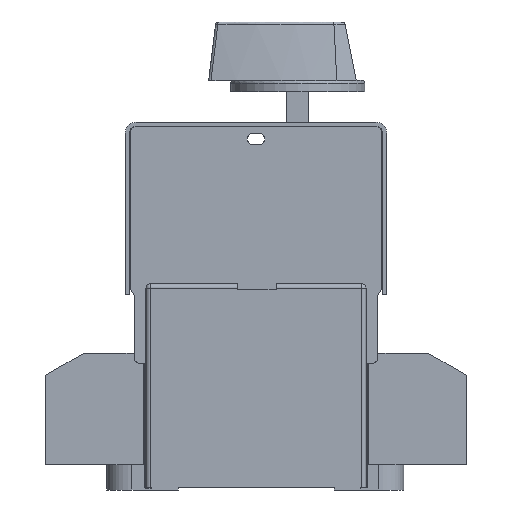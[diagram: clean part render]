
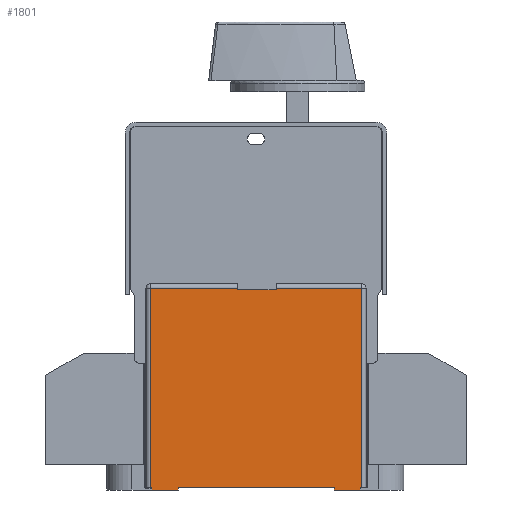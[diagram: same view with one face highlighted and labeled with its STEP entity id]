
A CAD part, left-side view. The second image highlights one B-rep face of the part: STEP entity #1801.
In plain terms, the highlighted planar face has unit normal (-1, 0, 0).
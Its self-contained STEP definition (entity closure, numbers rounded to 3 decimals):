
#1801=ADVANCED_FACE('',(#3917),#3069,.F.);
#3069=PLANE('',#25568);
#3917=FACE_OUTER_BOUND('',#5121,.T.);
#5121=EDGE_LOOP('',(#7182,#7183,#7184,#7185,#7186,#7187,#7188,#7189,#7190,
#7191,#7192,#7193,#7194,#7195,#7196,#7197));
#7182=ORIENTED_EDGE('',*,*,#16686,.F.);
#7183=ORIENTED_EDGE('',*,*,#16687,.T.);
#7184=ORIENTED_EDGE('',*,*,#16688,.T.);
#7185=ORIENTED_EDGE('',*,*,#16473,.F.);
#7186=ORIENTED_EDGE('',*,*,#16689,.T.);
#7187=ORIENTED_EDGE('',*,*,#16690,.T.);
#7188=ORIENTED_EDGE('',*,*,#16684,.T.);
#7189=ORIENTED_EDGE('',*,*,#16570,.T.);
#7190=ORIENTED_EDGE('',*,*,#16336,.F.);
#7191=ORIENTED_EDGE('',*,*,#16691,.F.);
#7192=ORIENTED_EDGE('',*,*,#16692,.T.);
#7193=ORIENTED_EDGE('',*,*,#16476,.T.);
#7194=ORIENTED_EDGE('',*,*,#16693,.F.);
#7195=ORIENTED_EDGE('',*,*,#16694,.F.);
#7196=ORIENTED_EDGE('',*,*,#16352,.T.);
#7197=ORIENTED_EDGE('',*,*,#16582,.T.);
#13941=VERTEX_POINT('',#34391);
#13942=VERTEX_POINT('',#34393);
#13955=VERTEX_POINT('',#34424);
#13956=VERTEX_POINT('',#34426);
#14055=VERTEX_POINT('',#34674);
#14057=VERTEX_POINT('',#34678);
#14060=VERTEX_POINT('',#34685);
#14061=VERTEX_POINT('',#34687);
#14140=VERTEX_POINT('',#34874);
#14148=VERTEX_POINT('',#34896);
#14211=VERTEX_POINT('',#35094);
#14212=VERTEX_POINT('',#35098);
#14213=VERTEX_POINT('',#35100);
#14214=VERTEX_POINT('',#35103);
#14215=VERTEX_POINT('',#35106);
#14216=VERTEX_POINT('',#35109);
#16336=EDGE_CURVE('',#13941,#13942,#19969,.T.);
#16352=EDGE_CURVE('',#13956,#13955,#19984,.T.);
#16473=EDGE_CURVE('',#14057,#14055,#20092,.T.);
#16476=EDGE_CURVE('',#14061,#14060,#20095,.T.);
#16570=EDGE_CURVE('',#14140,#13942,#20168,.T.);
#16582=EDGE_CURVE('',#13955,#14148,#20176,.T.);
#16684=EDGE_CURVE('',#14211,#14140,#20264,.T.);
#16686=EDGE_CURVE('',#14212,#14148,#20265,.T.);
#16687=EDGE_CURVE('',#14212,#14213,#20266,.T.);
#16688=EDGE_CURVE('',#14213,#14055,#20267,.T.);
#16689=EDGE_CURVE('',#14057,#14214,#20268,.T.);
#16690=EDGE_CURVE('',#14214,#14211,#20269,.T.);
#16691=EDGE_CURVE('',#14215,#13941,#20270,.T.);
#16692=EDGE_CURVE('',#14215,#14061,#20271,.T.);
#16693=EDGE_CURVE('',#14216,#14060,#20272,.T.);
#16694=EDGE_CURVE('',#13956,#14216,#20273,.T.);
#19969=LINE('',#34392,#22726);
#19984=LINE('',#34425,#22741);
#20092=LINE('',#34679,#22849);
#20095=LINE('',#34686,#22852);
#20168=LINE('',#34873,#22925);
#20176=LINE('',#34897,#22933);
#20264=LINE('',#35093,#23021);
#20265=LINE('',#35097,#23022);
#20266=LINE('',#35099,#23023);
#20267=LINE('',#35101,#23024);
#20268=LINE('',#35102,#23025);
#20269=LINE('',#35104,#23026);
#20270=LINE('',#35105,#23027);
#20271=LINE('',#35107,#23028);
#20272=LINE('',#35108,#23029);
#20273=LINE('',#35110,#23030);
#22726=VECTOR('',#27584,1.);
#22741=VECTOR('',#27607,1.);
#22849=VECTOR('',#27787,1.);
#22852=VECTOR('',#27792,1.);
#22925=VECTOR('',#27935,1.);
#22933=VECTOR('',#27957,1.);
#23021=VECTOR('',#28137,1.);
#23022=VECTOR('',#28142,1.);
#23023=VECTOR('',#28143,1.);
#23024=VECTOR('',#28144,1.);
#23025=VECTOR('',#28145,1.);
#23026=VECTOR('',#28146,1.);
#23027=VECTOR('',#28147,1.);
#23028=VECTOR('',#28148,1.);
#23029=VECTOR('',#28149,1.);
#23030=VECTOR('',#28150,1.);
#25568=AXIS2_PLACEMENT_3D('',#35111,#28151,#28152);
#27584=DIRECTION('',(0.,0.,1.));
#27607=DIRECTION('',(0.,0.,1.));
#27787=DIRECTION('',(0.,-1.,0.));
#27792=DIRECTION('',(0.,-1.,0.));
#27935=DIRECTION('',(0.,-1.,0.));
#27957=DIRECTION('',(0.,-1.,0.));
#28137=DIRECTION('',(0.,0.,-1.));
#28142=DIRECTION('',(0.,0.,-1.));
#28143=DIRECTION('',(0.,1.,0.));
#28144=DIRECTION('',(0.,0.,-1.));
#28145=DIRECTION('',(0.,0.,1.));
#28146=DIRECTION('',(0.,1.,0.));
#28147=DIRECTION('',(0.,1.,0.));
#28148=DIRECTION('',(0.,0.,1.));
#28149=DIRECTION('',(0.,0.,1.));
#28150=DIRECTION('',(0.,1.,0.));
#28151=DIRECTION('',(1.,0.,0.));
#28152=DIRECTION('',(0.,0.,-1.));
#34391=CARTESIAN_POINT('',(-69.,12.765,-4.9));
#34392=CARTESIAN_POINT('',(-69.,12.765,-5.9));
#34393=CARTESIAN_POINT('',(-69.,12.765,-3.9));
#34424=CARTESIAN_POINT('',(-69.,-62.235,-3.9));
#34425=CARTESIAN_POINT('',(-69.,-62.235,-5.9));
#34426=CARTESIAN_POINT('',(-69.,-62.235,-4.9));
#34674=CARTESIAN_POINT('',(-69.,-31.985,67.));
#34678=CARTESIAN_POINT('',(-69.,-17.985,67.));
#34679=CARTESIAN_POINT('',(-69.,12.765,67.));
#34685=CARTESIAN_POINT('',(-69.,-52.735,-3.9));
#34686=CARTESIAN_POINT('',(-69.,-62.235,-3.9));
#34687=CARTESIAN_POINT('',(-69.,3.265,-3.9));
#34873=CARTESIAN_POINT('',(-69.,-62.235,-3.9));
#34874=CARTESIAN_POINT('',(-69.,13.265,-3.9));
#34896=CARTESIAN_POINT('',(-69.,-62.735,-3.9));
#34897=CARTESIAN_POINT('',(-69.,-62.235,-3.9));
#35093=CARTESIAN_POINT('',(-69.,13.265,69.1));
#35094=CARTESIAN_POINT('',(-69.,13.265,67.6));
#35097=CARTESIAN_POINT('',(-69.,-62.735,69.1));
#35098=CARTESIAN_POINT('',(-69.,-62.735,67.6));
#35099=CARTESIAN_POINT('',(-69.,13.265,67.6));
#35100=CARTESIAN_POINT('',(-69.,-31.985,67.6));
#35101=CARTESIAN_POINT('',(-69.,-31.985,69.1));
#35102=CARTESIAN_POINT('',(-69.,-17.985,69.1));
#35103=CARTESIAN_POINT('',(-69.,-17.985,67.6));
#35104=CARTESIAN_POINT('',(-69.,13.265,67.6));
#35105=CARTESIAN_POINT('',(-69.,3.265,-4.9));
#35106=CARTESIAN_POINT('',(-69.,3.265,-4.9));
#35107=CARTESIAN_POINT('',(-69.,3.265,-5.9));
#35108=CARTESIAN_POINT('',(-69.,-52.735,-5.9));
#35109=CARTESIAN_POINT('',(-69.,-52.735,-4.9));
#35110=CARTESIAN_POINT('',(-69.,-62.235,-4.9));
#35111=CARTESIAN_POINT('',(-69.,-62.235,69.1));
